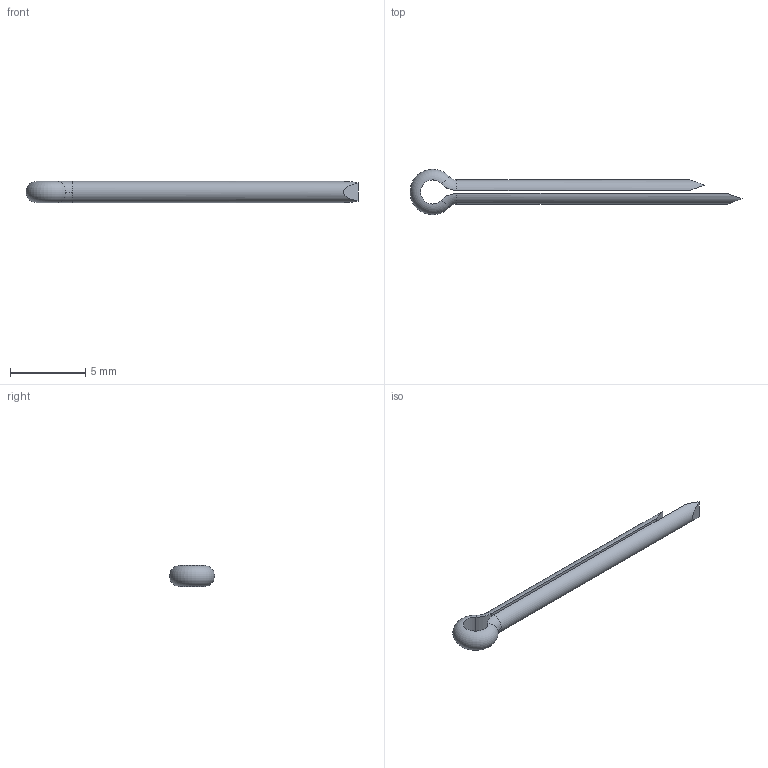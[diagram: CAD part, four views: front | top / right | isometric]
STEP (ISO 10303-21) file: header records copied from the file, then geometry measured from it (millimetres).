
FILE_DESCRIPTION (( 'STEP AP203' ), '1' );
FILE_NAME ('65674.0016.step', '2014-01-07T16:35:35', ( 'User' ), ( '' ), 'SwSTEP 2.0', 'SolidWorks 2009', '' );
FILE_SCHEMA (( 'CONFIG_CONTROL_DESIGN' ));
Length unit declared in the file: millimetre
Products named in the file (1): 65674.0016
Bounding box: 22 x 3 x 1.4 mm (x, y, z)
Volume: 31.9 mm3; surface area: 151.4 mm2
Topology: 1 solids, 1 shells, 16 faces, 34 edges, 20 vertices
Faces by surface type: plane 6, torus 5, cylinder 5
Entity records: 507 total; most frequent: CARTESIAN_POINT 89, DIRECTION 78, ORIENTED_EDGE 68, EDGE_CURVE 34, AXIS2_PLACEMENT_3D 33, VERTEX_POINT 20, ADVANCED_FACE 16, EDGE_LOOP 16
